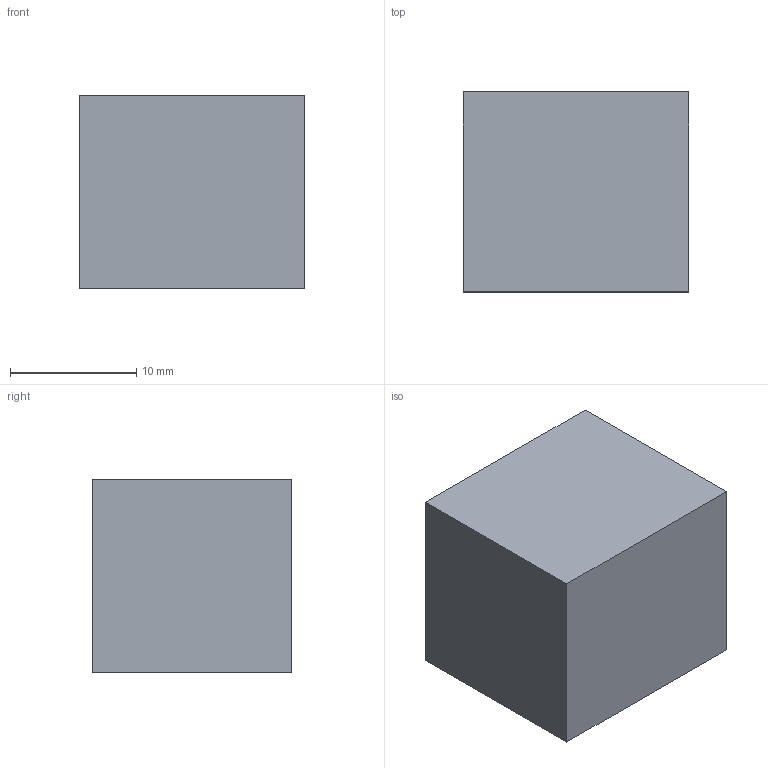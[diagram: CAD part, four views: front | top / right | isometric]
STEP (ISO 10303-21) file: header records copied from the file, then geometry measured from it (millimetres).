
FILE_DESCRIPTION(('Open CASCADE Model'),'2;1');
FILE_NAME('Open CASCADE Shape Model','2026-08-18T10:55:09',('Author'),( 'Open CASCADE'),'Open CASCADE STEP processor 7.9','Open CASCADE 7.9' ,'Unknown');
FILE_SCHEMA(('AUTOMOTIVE_DESIGN { 1 0 10303 214 1 1 1 1 }'));
Length unit declared in the file: millimetre
Products named in the file (1): usb_2_ports
Bounding box: 17.86 x 15.82 x 15.32 mm (x, y, z)
Volume: 4330 mm3; surface area: 1597.4 mm2
Topology: 1 solids, 1 shells, 6 faces, 12 edges, 8 vertices
Faces by surface type: plane 6
Entity records: 322 total; most frequent: CARTESIAN_POINT 51, DIRECTION 50, LINE 36, VECTOR 36, ORIENTED_EDGE 24, PCURVE 24, DEFINITIONAL_REPRESENTATION 24, EDGE_CURVE 12
